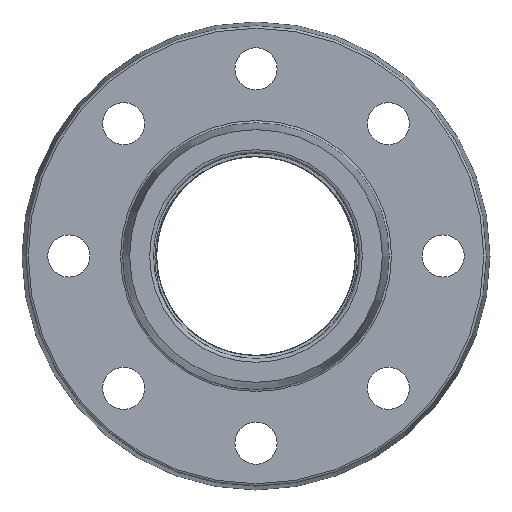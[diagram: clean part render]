
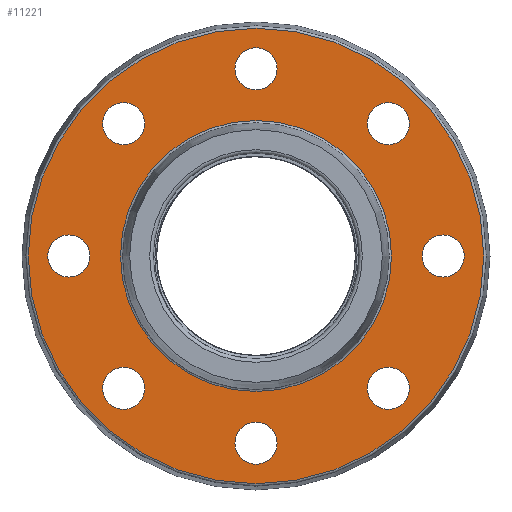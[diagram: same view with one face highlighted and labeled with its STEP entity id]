
A CAD part, left-side view. The second image highlights one B-rep face of the part: STEP entity #11221.
In plain terms, the highlighted planar face has unit normal (-1, 0, 0).
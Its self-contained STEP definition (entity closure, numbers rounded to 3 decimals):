
#83=FACE_BOUND('',#2965,.T.);
#84=FACE_BOUND('',#2966,.T.);
#85=FACE_BOUND('',#2967,.T.);
#86=FACE_BOUND('',#2968,.T.);
#87=FACE_BOUND('',#2969,.T.);
#88=FACE_BOUND('',#2970,.T.);
#89=FACE_BOUND('',#2971,.T.);
#90=FACE_BOUND('',#2972,.T.);
#91=FACE_BOUND('',#2973,.T.);
#182=PLANE('',#13223);
#2103=FACE_OUTER_BOUND('',#2964,.T.);
#2964=EDGE_LOOP('',(#10036));
#2965=EDGE_LOOP('',(#10037));
#2966=EDGE_LOOP('',(#10038));
#2967=EDGE_LOOP('',(#10039));
#2968=EDGE_LOOP('',(#10040));
#2969=EDGE_LOOP('',(#10041));
#2970=EDGE_LOOP('',(#10042));
#2971=EDGE_LOOP('',(#10043));
#2972=EDGE_LOOP('',(#10044));
#2973=EDGE_LOOP('',(#10045));
#4261=CIRCLE('',#13191,9.);
#4263=CIRCLE('',#13195,9.);
#4265=CIRCLE('',#13199,9.);
#4267=CIRCLE('',#13203,9.);
#4269=CIRCLE('',#13207,9.);
#4271=CIRCLE('',#13211,9.);
#4273=CIRCLE('',#13215,9.);
#4275=CIRCLE('',#13219,9.);
#4276=CIRCLE('',#13221,57.917);
#4278=CIRCLE('',#13224,97.344);
#5162=VERTEX_POINT('',#21291);
#5164=VERTEX_POINT('',#21297);
#5166=VERTEX_POINT('',#21303);
#5168=VERTEX_POINT('',#21309);
#5170=VERTEX_POINT('',#21315);
#5172=VERTEX_POINT('',#21321);
#5174=VERTEX_POINT('',#21327);
#5176=VERTEX_POINT('',#21333);
#5177=VERTEX_POINT('',#21336);
#5179=VERTEX_POINT('',#21341);
#6795=EDGE_CURVE('',#5162,#5162,#4261,.T.);
#6797=EDGE_CURVE('',#5164,#5164,#4263,.T.);
#6799=EDGE_CURVE('',#5166,#5166,#4265,.T.);
#6801=EDGE_CURVE('',#5168,#5168,#4267,.T.);
#6803=EDGE_CURVE('',#5170,#5170,#4269,.T.);
#6805=EDGE_CURVE('',#5172,#5172,#4271,.T.);
#6807=EDGE_CURVE('',#5174,#5174,#4273,.T.);
#6809=EDGE_CURVE('',#5176,#5176,#4275,.T.);
#6810=EDGE_CURVE('',#5177,#5177,#4276,.T.);
#6812=EDGE_CURVE('',#5179,#5179,#4278,.T.);
#10036=ORIENTED_EDGE('',*,*,#6812,.F.);
#10037=ORIENTED_EDGE('',*,*,#6797,.T.);
#10038=ORIENTED_EDGE('',*,*,#6799,.T.);
#10039=ORIENTED_EDGE('',*,*,#6801,.T.);
#10040=ORIENTED_EDGE('',*,*,#6803,.T.);
#10041=ORIENTED_EDGE('',*,*,#6805,.T.);
#10042=ORIENTED_EDGE('',*,*,#6807,.T.);
#10043=ORIENTED_EDGE('',*,*,#6809,.T.);
#10044=ORIENTED_EDGE('',*,*,#6795,.T.);
#10045=ORIENTED_EDGE('',*,*,#6810,.F.);
#11221=ADVANCED_FACE('',(#2103,#83,#84,#85,#86,#87,#88,#89,#90,#91),#182,
 .T.);
#13191=AXIS2_PLACEMENT_3D('',#21292,#17513,#17514);
#13195=AXIS2_PLACEMENT_3D('',#21298,#17521,#17522);
#13199=AXIS2_PLACEMENT_3D('',#21304,#17529,#17530);
#13203=AXIS2_PLACEMENT_3D('',#21310,#17537,#17538);
#13207=AXIS2_PLACEMENT_3D('',#21316,#17545,#17546);
#13211=AXIS2_PLACEMENT_3D('',#21322,#17553,#17554);
#13215=AXIS2_PLACEMENT_3D('',#21328,#17561,#17562);
#13219=AXIS2_PLACEMENT_3D('',#21334,#17569,#17570);
#13221=AXIS2_PLACEMENT_3D('',#21337,#17573,#17574);
#13223=AXIS2_PLACEMENT_3D('',#21340,#17577,#17578);
#13224=AXIS2_PLACEMENT_3D('',#21342,#17579,#17580);
#17513=DIRECTION('center_axis',(1.,0.,0.));
#17514=DIRECTION('ref_axis',(0.,0.,1.));
#17521=DIRECTION('center_axis',(1.,0.,0.));
#17522=DIRECTION('ref_axis',(0.,0.707,0.707));
#17529=DIRECTION('center_axis',(1.,0.,0.));
#17530=DIRECTION('ref_axis',(0.,1.,0.));
#17537=DIRECTION('center_axis',(1.,0.,0.));
#17538=DIRECTION('ref_axis',(0.,0.707,-0.707));
#17545=DIRECTION('center_axis',(1.,0.,0.));
#17546=DIRECTION('ref_axis',(0.,0.,-1.));
#17553=DIRECTION('center_axis',(1.,0.,0.));
#17554=DIRECTION('ref_axis',(0.,-0.707,-0.707));
#17561=DIRECTION('center_axis',(1.,0.,0.));
#17562=DIRECTION('ref_axis',(0.,-1.,0.));
#17569=DIRECTION('center_axis',(1.,0.,0.));
#17570=DIRECTION('ref_axis',(0.,-0.707,0.707));
#17573=DIRECTION('center_axis',(-1.,0.,0.));
#17574=DIRECTION('ref_axis',(0.,1.,0.));
#17577=DIRECTION('center_axis',(-1.,0.,0.));
#17578=DIRECTION('ref_axis',(0.,0.,1.));
#17579=DIRECTION('center_axis',(1.,0.,0.));
#17580=DIRECTION('ref_axis',(0.,1.,0.));
#21291=CARTESIAN_POINT('',(34.5,80.,9.));
#21292=CARTESIAN_POINT('Origin',(34.5,80.,0.));
#21297=CARTESIAN_POINT('',(34.5,62.933,-50.205));
#21298=CARTESIAN_POINT('Origin',(34.5,56.569,-56.569));
#21303=CARTESIAN_POINT('',(34.5,9.,-80.));
#21304=CARTESIAN_POINT('Origin',(34.5,0.,-80.));
#21309=CARTESIAN_POINT('',(34.5,-50.205,-62.933));
#21310=CARTESIAN_POINT('Origin',(34.5,-56.569,-56.569));
#21315=CARTESIAN_POINT('',(34.5,-80.,-9.));
#21316=CARTESIAN_POINT('Origin',(34.5,-80.,0.));
#21321=CARTESIAN_POINT('',(34.5,-62.933,50.205));
#21322=CARTESIAN_POINT('Origin',(34.5,-56.569,56.569));
#21327=CARTESIAN_POINT('',(34.5,-9.,80.));
#21328=CARTESIAN_POINT('Origin',(34.5,0.,80.));
#21333=CARTESIAN_POINT('',(34.5,50.205,62.933));
#21334=CARTESIAN_POINT('Origin',(34.5,56.569,56.569));
#21336=CARTESIAN_POINT('',(34.5,-57.917,0.));
#21337=CARTESIAN_POINT('Origin',(34.5,0.,0.));
#21340=CARTESIAN_POINT('Origin',(34.5,-57.,0.));
#21341=CARTESIAN_POINT('',(34.5,-97.344,0.));
#21342=CARTESIAN_POINT('Origin',(34.5,0.,0.));
